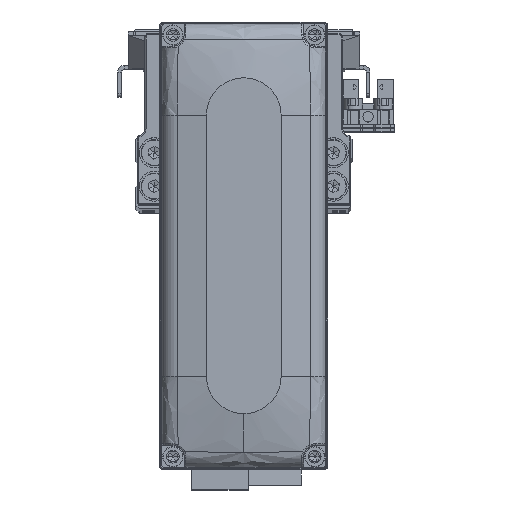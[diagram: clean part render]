
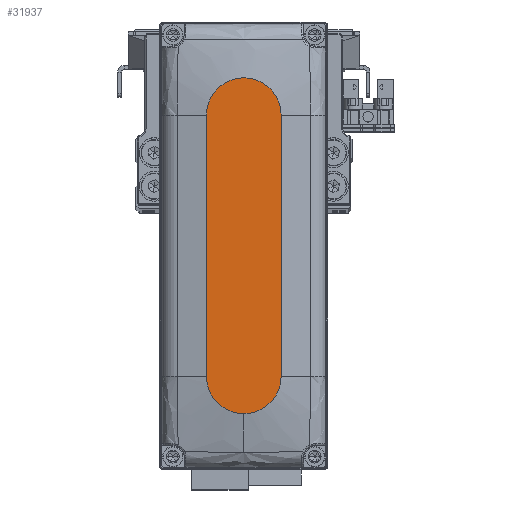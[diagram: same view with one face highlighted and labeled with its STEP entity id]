
A CAD part, top view. The second image highlights one B-rep face of the part: STEP entity #31937.
In plain terms, the highlighted planar face has unit normal (0, 0, 1).
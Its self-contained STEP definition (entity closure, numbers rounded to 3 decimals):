
#292 = VECTOR ( 'NONE', #31077, 1000. ) ;
#542 = AXIS2_PLACEMENT_3D ( 'NONE', #25598, #39197, #8648 ) ;
#1638 = CARTESIAN_POINT ( 'NONE',  ( 45., 0., 28. ) ) ;
#2440 = DIRECTION ( 'NONE',  ( 0., 0., 1. ) ) ;
#2916 = ORIENTED_EDGE ( 'NONE', *, *, #41129, .T. ) ;
#3571 = EDGE_CURVE ( 'NONE', #19245, #42036, #37563, .T. ) ;
#3866 = LINE ( 'NONE', #17474, #292 ) ;
#5784 = FACE_OUTER_BOUND ( 'NONE', #25634, .T. ) ;
#8648 = DIRECTION ( 'NONE',  ( 1., 0., 0. ) ) ;
#9098 = DIRECTION ( 'NONE',  ( -1., 0., 0. ) ) ;
#9923 = AXIS2_PLACEMENT_3D ( 'NONE', #32999, #2440, #16034 ) ;
#10092 = CARTESIAN_POINT ( 'NONE',  ( -35., 0., 28. ) ) ;
#11100 = EDGE_CURVE ( 'NONE', #37219, #14120, #26045, .T. ) ;
#12380 = DIRECTION ( 'NONE',  ( 0., 0., 1. ) ) ;
#14120 = VERTEX_POINT ( 'NONE', #26705 ) ;
#14913 = ORIENTED_EDGE ( 'NONE', *, *, #37543, .T. ) ;
#15054 = CARTESIAN_POINT ( 'NONE',  ( 35., 10., 28. ) ) ;
#16034 = DIRECTION ( 'NONE',  ( 1., 0., 0. ) ) ;
#17474 = CARTESIAN_POINT ( 'NONE',  ( -35., -10., 28. ) ) ;
#17996 = CIRCLE ( 'NONE', #42907, 10. ) ;
#18354 = AXIS2_PLACEMENT_3D ( 'NONE', #42940, #12380, #25988 ) ;
#18448 = VECTOR ( 'NONE', #9098, 1000. ) ;
#18527 = ORIENTED_EDGE ( 'NONE', *, *, #3571, .T. ) ;
#19245 = VERTEX_POINT ( 'NONE', #30799 ) ;
#19400 = PLANE ( 'NONE',  #9923 ) ;
#19766 = CIRCLE ( 'NONE', #542, 10. ) ;
#21654 = ORIENTED_EDGE ( 'NONE', *, *, #11100, .T. ) ;
#23715 = DIRECTION ( 'NONE',  ( 0., 0., 1. ) ) ;
#23888 = ORIENTED_EDGE ( 'NONE', *, *, #27396, .T. ) ;
#25598 = CARTESIAN_POINT ( 'NONE',  ( 35., 0., 28. ) ) ;
#25634 = EDGE_LOOP ( 'NONE', ( #21654, #23888, #14913, #18527, #2916 ) ) ;
#25988 = DIRECTION ( 'NONE',  ( 1., 0., 0. ) ) ;
#26045 = LINE ( 'NONE', #39649, #18448 ) ;
#26705 = CARTESIAN_POINT ( 'NONE',  ( -35., 10., 28. ) ) ;
#27396 = EDGE_CURVE ( 'NONE', #14120, #40472, #17996, .T. ) ;
#30799 = CARTESIAN_POINT ( 'NONE',  ( 35., -10., 28. ) ) ;
#31077 = DIRECTION ( 'NONE',  ( 1., 0., 0. ) ) ;
#31937 = ADVANCED_FACE ( 'NONE', ( #5784 ), #19400, .T. ) ;
#32999 = CARTESIAN_POINT ( 'NONE',  ( 0., 0., 28. ) ) ;
#37219 = VERTEX_POINT ( 'NONE', #15054 ) ;
#37312 = DIRECTION ( 'NONE',  ( 1., 0., 0. ) ) ;
#37543 = EDGE_CURVE ( 'NONE', #40472, #19245, #3866, .T. ) ;
#37563 = CIRCLE ( 'NONE', #18354, 10. ) ;
#39197 = DIRECTION ( 'NONE',  ( 0., 0., 1. ) ) ;
#39649 = CARTESIAN_POINT ( 'NONE',  ( -35., 10., 28. ) ) ;
#40472 = VERTEX_POINT ( 'NONE', #43570 ) ;
#41129 = EDGE_CURVE ( 'NONE', #42036, #37219, #19766, .T. ) ;
#42036 = VERTEX_POINT ( 'NONE', #1638 ) ;
#42907 = AXIS2_PLACEMENT_3D ( 'NONE', #10092, #23715, #37312 ) ;
#42940 = CARTESIAN_POINT ( 'NONE',  ( 35., 0., 28. ) ) ;
#43570 = CARTESIAN_POINT ( 'NONE',  ( -35., -10., 28. ) ) ;
